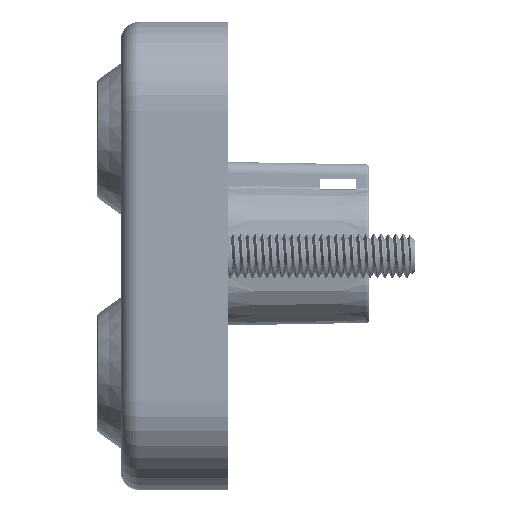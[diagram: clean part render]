
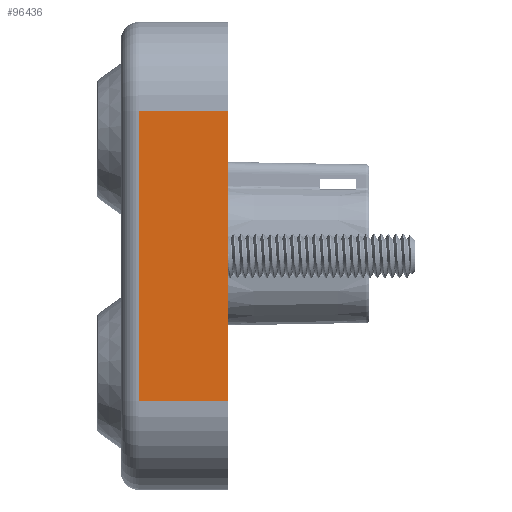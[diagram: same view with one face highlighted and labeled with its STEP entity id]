
A CAD part, left-side view. The second image highlights one B-rep face of the part: STEP entity #96436.
In plain terms, the highlighted planar face has unit normal (-1, 0, 0).
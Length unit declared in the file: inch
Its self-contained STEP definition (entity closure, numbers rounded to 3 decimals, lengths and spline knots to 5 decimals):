
#1023 = CARTESIAN_POINT ( 'NONE',  ( -2.3125, -0.1875, -1.25 ) ) ;
#4158 = CARTESIAN_POINT ( 'NONE',  ( -2.3125, -0.1, -1.25 ) ) ;
#13880 = FACE_OUTER_BOUND ( 'NONE', #57849, .T. ) ;
#25866 = PLANE ( 'NONE',  #56115 ) ;
#26877 = EDGE_CURVE ( 'NONE', #57580, #123506, #69905, .T. ) ;
#27330 = DIRECTION ( 'NONE',  ( 0., 0., -1. ) ) ;
#27718 = CARTESIAN_POINT ( 'NONE',  ( -2.3125, -0.1, 0.775 ) ) ;
#34475 = VERTEX_POINT ( 'NONE', #95530 ) ;
#35493 = ORIENTED_EDGE ( 'NONE', *, *, #36885, .T. ) ;
#36296 = CARTESIAN_POINT ( 'NONE',  ( -2.3125, -0.5725, -1.25 ) ) ;
#36885 = EDGE_CURVE ( 'NONE', #123506, #34475, #94033, .T. ) ;
#38071 = ORIENTED_EDGE ( 'NONE', *, *, #167235, .T. ) ;
#41212 = DIRECTION ( 'NONE',  ( -1., 0., 0. ) ) ;
#52552 = VECTOR ( 'NONE', #157911, 39.37008 ) ;
#56115 = AXIS2_PLACEMENT_3D ( 'NONE', #1023, #41212, #120036 ) ;
#57580 = VERTEX_POINT ( 'NONE', #69422 ) ;
#57849 = EDGE_LOOP ( 'NONE', ( #88241, #35493, #38071, #102394 ) ) ;
#69422 = CARTESIAN_POINT ( 'NONE',  ( -2.3125, -0.5725, 0.775 ) ) ;
#69905 = LINE ( 'NONE', #104471, #95251 ) ;
#71161 = VERTEX_POINT ( 'NONE', #167087 ) ;
#80421 = DIRECTION ( 'NONE',  ( 0., 0., -1. ) ) ;
#88241 = ORIENTED_EDGE ( 'NONE', *, *, #26877, .T. ) ;
#94033 = LINE ( 'NONE', #4158, #167515 ) ;
#95251 = VECTOR ( 'NONE', #143995, 39.37008 ) ;
#95530 = CARTESIAN_POINT ( 'NONE',  ( -2.3125, -0.1, -0.775 ) ) ;
#96436 = ADVANCED_FACE ( 'NONE', ( #13880 ), #25866, .T. ) ;
#102394 = ORIENTED_EDGE ( 'NONE', *, *, #129870, .F. ) ;
#104471 = CARTESIAN_POINT ( 'NONE',  ( -2.3125, -0.1875, 0.775 ) ) ;
#114449 = VECTOR ( 'NONE', #80421, 39.37008 ) ;
#118411 = CARTESIAN_POINT ( 'NONE',  ( -2.3125, -0.5725, -0.775 ) ) ;
#120036 = DIRECTION ( 'NONE',  ( 0., 0., 1. ) ) ;
#123506 = VERTEX_POINT ( 'NONE', #27718 ) ;
#129870 = EDGE_CURVE ( 'NONE', #57580, #71161, #153758, .T. ) ;
#134688 = LINE ( 'NONE', #118411, #52552 ) ;
#143995 = DIRECTION ( 'NONE',  ( 0., 1., 0. ) ) ;
#153758 = LINE ( 'NONE', #36296, #114449 ) ;
#157911 = DIRECTION ( 'NONE',  ( 0., -1., 0. ) ) ;
#167087 = CARTESIAN_POINT ( 'NONE',  ( -2.3125, -0.5725, -0.775 ) ) ;
#167235 = EDGE_CURVE ( 'NONE', #34475, #71161, #134688, .T. ) ;
#167515 = VECTOR ( 'NONE', #27330, 39.37008 ) ;
